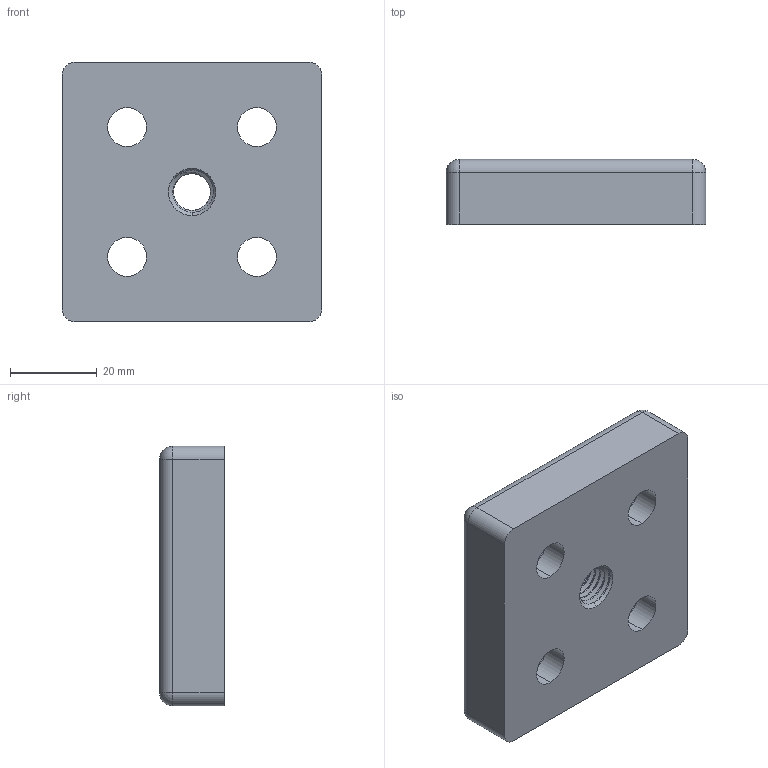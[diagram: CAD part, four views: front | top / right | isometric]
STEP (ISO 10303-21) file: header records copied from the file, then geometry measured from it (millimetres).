
FILE_DESCRIPTION (( 'STEP AP203' ), '1' );
FILE_NAME ('3207.006.305.STEP', '2025-02-19T05:01:27', ( '' ), ( '' ), 'SwSTEP 2.0', 'SolidWorks 2024', '' );
FILE_SCHEMA (( 'CONFIG_CONTROL_DESIGN' ));
Length unit declared in the file: millimetre
Products named in the file (1): 3207.006.305
Bounding box: 60 x 15 x 60 mm (x, y, z)
Volume: 43932.4 mm3; surface area: 12781.5 mm2
Topology: 1 solids, 1 shells, 74 faces, 186 edges, 114 vertices
Faces by surface type: cylinder 43, cone 14, plane 10, sphere 4, bspline 3
Entity records: 4650 total; most frequent: CARTESIAN_POINT 2900, ORIENTED_EDGE 364, DIRECTION 340, EDGE_CURVE 182, AXIS2_PLACEMENT_3D 136, VERTEX_POINT 114, EDGE_LOOP 88, FACE_OUTER_BOUND 74
